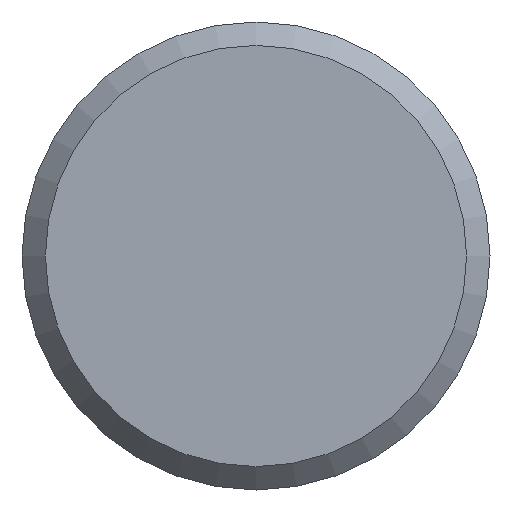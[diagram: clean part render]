
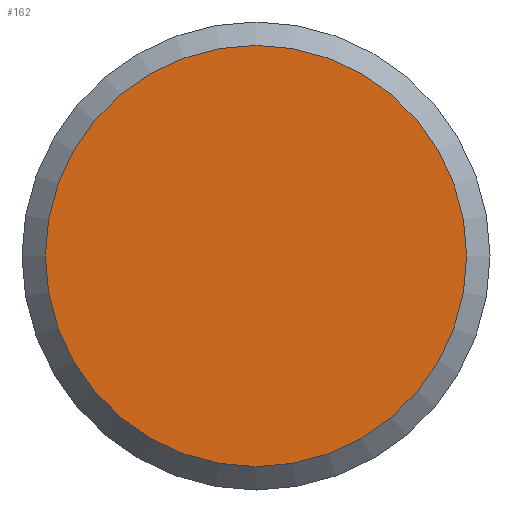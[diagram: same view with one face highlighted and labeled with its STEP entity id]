
A CAD part, left-side view. The second image highlights one B-rep face of the part: STEP entity #162.
In plain terms, the highlighted planar face has unit normal (-1, 0, 0).
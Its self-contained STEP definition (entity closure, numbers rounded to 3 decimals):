
#94 = CONICAL_SURFACE('',#95,5.,0.785);
#95 = AXIS2_PLACEMENT_3D('',#96,#97,#98);
#96 = CARTESIAN_POINT('',(-59.55,0.,72.8));
#97 = DIRECTION('',(1.,0.,0.));
#98 = DIRECTION('',(-0.,1.,0.));
#110 = VERTEX_POINT('',#111);
#111 = CARTESIAN_POINT('',(-60.05,4.5,72.8));
#132 = EDGE_CURVE('',#110,#110,#133,.T.);
#133 = SURFACE_CURVE('',#134,(#139,#146),.PCURVE_S1.);
#134 = CIRCLE('',#135,4.5);
#135 = AXIS2_PLACEMENT_3D('',#136,#137,#138);
#136 = CARTESIAN_POINT('',(-60.05,0.,72.8));
#137 = DIRECTION('',(1.,0.,0.));
#138 = DIRECTION('',(-0.,1.,0.));
#139 = PCURVE('',#94,#140);
#140 = DEFINITIONAL_REPRESENTATION('',(#141),#145);
#141 = LINE('',#142,#143);
#142 = CARTESIAN_POINT('',(0.,-0.5));
#143 = VECTOR('',#144,1.);
#144 = DIRECTION('',(1.,-0.));
#145 = ( GEOMETRIC_REPRESENTATION_CONTEXT(2) 
PARAMETRIC_REPRESENTATION_CONTEXT() REPRESENTATION_CONTEXT('2D SPACE',''
  ) );
#146 = PCURVE('',#147,#152);
#147 = PLANE('',#148);
#148 = AXIS2_PLACEMENT_3D('',#149,#150,#151);
#149 = CARTESIAN_POINT('',(-60.05,0.,72.8));
#150 = DIRECTION('',(1.,0.,0.));
#151 = DIRECTION('',(-0.,0.,1.));
#152 = DEFINITIONAL_REPRESENTATION('',(#153),#157);
#153 = CIRCLE('',#154,4.5);
#154 = AXIS2_PLACEMENT_2D('',#155,#156);
#155 = CARTESIAN_POINT('',(0.,0.));
#156 = DIRECTION('',(0.,-1.));
#157 = ( GEOMETRIC_REPRESENTATION_CONTEXT(2) 
PARAMETRIC_REPRESENTATION_CONTEXT() REPRESENTATION_CONTEXT('2D SPACE',''
  ) );
#162 = ADVANCED_FACE('',(#163),#147,.F.);
#163 = FACE_BOUND('',#164,.F.);
#164 = EDGE_LOOP('',(#165));
#165 = ORIENTED_EDGE('',*,*,#132,.T.);
